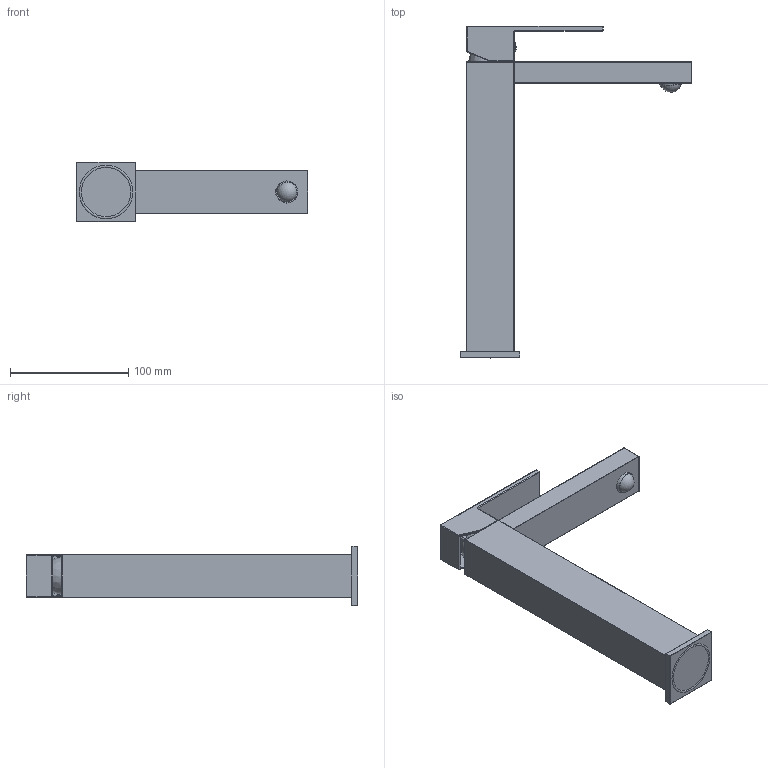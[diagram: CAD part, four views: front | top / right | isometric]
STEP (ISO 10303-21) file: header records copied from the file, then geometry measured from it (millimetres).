
FILE_DESCRIPTION(/* description */ (''),/* implementation_level */ '2;1');
FILE_NAME(/* name */ 'X:\Collections\PRO\Kubik\UL01\UL01 3D.stp',/* time_stamp */ '2016-11-04T08:15:17-04:00',/* author */ ('simono'),/* organization */ (''),/* preprocessor_version */ 'ST-DEVELOPER v15.6',/* originating_system */ 'Autodesk Inventor 2015',/* authorisation */ '');
FILE_SCHEMA (('AUTOMOTIVE_DESIGN { 1 0 10303 214 3 1 1 }'));
Length unit declared in the file: millimetre
Products named in the file (1): UL01 3D
Bounding box: 195.25 x 280.55 x 50 mm (x, y, z)
Volume: 498279.6 mm3; surface area: 78155.5 mm2
Topology: 1 solids, 6 shells, 175 faces, 383 edges, 205 vertices
Faces by surface type: cylinder 77, plane 50, sphere 33, torus 14, bspline 1
Full cylindrical faces by diameter (mm): 3 x1, 4 x1, 8 x2, 10 x2, 18 x1
Entity records: 4772 total; most frequent: DIRECTION 875, CARTESIAN_POINT 795, ORIENTED_EDGE 692, AXIS2_PLACEMENT_3D 354, EDGE_CURVE 351, VERTEX_POINT 204, EDGE_LOOP 201, FACE_OUTER_BOUND 175
